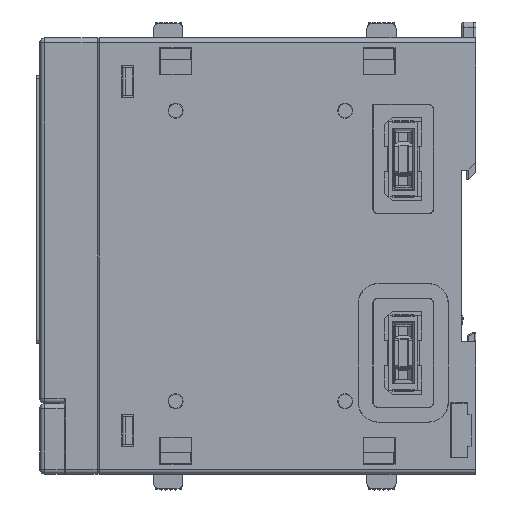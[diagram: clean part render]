
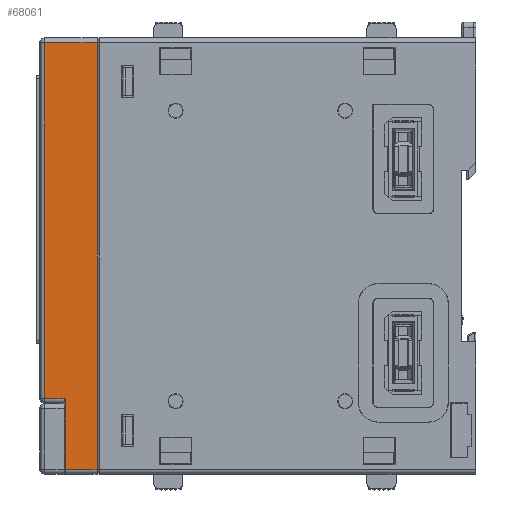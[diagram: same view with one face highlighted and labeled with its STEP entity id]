
A CAD part, left-side view. The second image highlights one B-rep face of the part: STEP entity #68061.
In plain terms, the highlighted planar face has unit normal (-1, 0, 0).
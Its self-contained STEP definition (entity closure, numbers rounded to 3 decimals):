
#21131=DIRECTION('',(0.,0.,-1.));
#21132=VECTOR('',#21131,88.);
#21133=CARTESIAN_POINT('',(-13.3,78.2,44.));
#21134=LINE('',#21133,#21132);
#21135=DIRECTION('',(0.,-1.,0.));
#21136=VECTOR('',#21135,6.6);
#21137=CARTESIAN_POINT('',(-13.3,84.8,-44.));
#21138=LINE('',#21137,#21136);
#21139=DIRECTION('',(0.,0.,1.));
#21140=VECTOR('',#21139,14.497);
#21141=CARTESIAN_POINT('',(-13.3,84.8,-44.));
#21142=LINE('',#21141,#21140);
#21143=DIRECTION('',(0.,0.,1.));
#21144=VECTOR('',#21143,73.43);
#21145=CARTESIAN_POINT('',(-13.3,89.,-29.43));
#21146=LINE('',#21145,#21144);
#21147=DIRECTION('',(0.,-1.,0.));
#21148=VECTOR('',#21147,10.8);
#21149=CARTESIAN_POINT('',(-13.3,89.,44.));
#21150=LINE('',#21149,#21148);
#21371=DIRECTION('',(0.,-1.,-0.017));
#21372=VECTOR('',#21371,4.201);
#21373=CARTESIAN_POINT('',(-13.3,89.,-29.43));
#21374=LINE('',#21373,#21372);
#30375=CARTESIAN_POINT('',(-13.3,89.,44.));
#30377=VERTEX_POINT('',#30375);
#30457=CARTESIAN_POINT('',(-13.3,89.,-29.43));
#30458=VERTEX_POINT('',#30457);
#32731=CARTESIAN_POINT('',(-13.3,78.2,-44.));
#32733=VERTEX_POINT('',#32731);
#32745=CARTESIAN_POINT('',(-13.3,78.2,44.));
#32746=VERTEX_POINT('',#32745);
#32749=CARTESIAN_POINT('',(-13.3,84.8,-44.));
#32750=VERTEX_POINT('',#32749);
#32755=CARTESIAN_POINT('',(-13.3,84.8,-29.503));
#32756=VERTEX_POINT('',#32755);
#68046=CARTESIAN_POINT('',(-13.3,78.,-45.));
#68047=DIRECTION('',(-1.,0.,0.));
#68048=DIRECTION('',(0.,0.,1.));
#68049=AXIS2_PLACEMENT_3D('',#68046,#68047,#68048);
#68050=PLANE('',#68049);
#68051=ORIENTED_EDGE('',*,*,#59166,.T.);
#68052=ORIENTED_EDGE('',*,*,#59195,.F.);
#68054=ORIENTED_EDGE('',*,*,#68053,.T.);
#68056=ORIENTED_EDGE('',*,*,#68055,.F.);
#68057=ORIENTED_EDGE('',*,*,#68005,.T.);
#68058=ORIENTED_EDGE('',*,*,#59137,.T.);
#68059=EDGE_LOOP('',(#68051,#68052,#68054,#68056,#68057,#68058));
#68060=FACE_OUTER_BOUND('',#68059,.F.);
#68061=ADVANCED_FACE('',(#68060),#68050,.T.);
#59137=EDGE_CURVE('',#30377,#32746,#21150,.T.);
#59166=EDGE_CURVE('',#32746,#32733,#21134,.T.);
#59195=EDGE_CURVE('',#32750,#32733,#21138,.T.);
#68005=EDGE_CURVE('',#30458,#30377,#21146,.T.);
#68053=EDGE_CURVE('',#32750,#32756,#21142,.T.);
#68055=EDGE_CURVE('',#30458,#32756,#21374,.T.);
